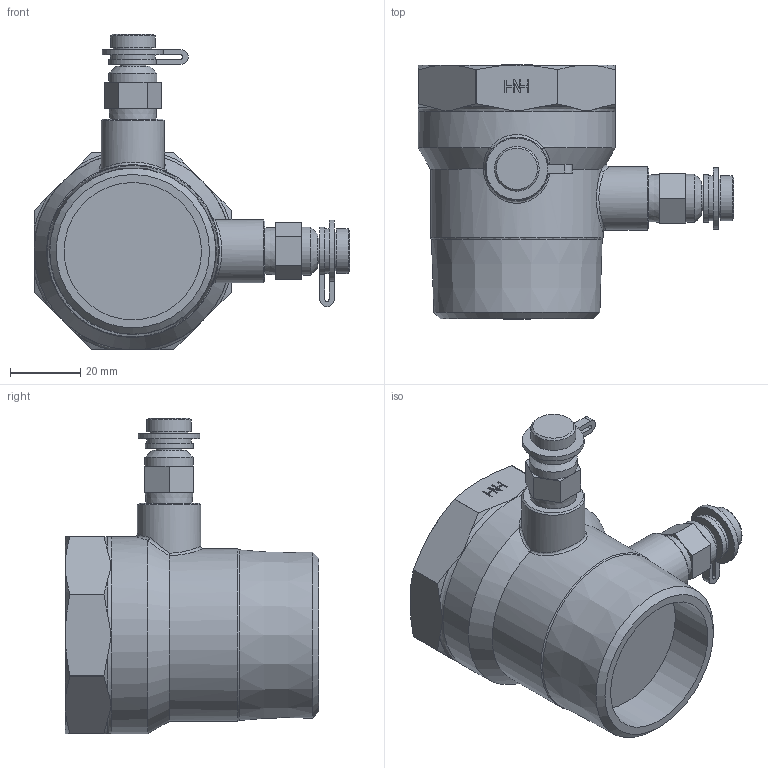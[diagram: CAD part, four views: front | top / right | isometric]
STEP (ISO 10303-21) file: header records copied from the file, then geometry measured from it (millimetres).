
FILE_DESCRIPTION((''),'2;1');
FILE_NAME('P:\Fastrack\53972_CRANE 3D\Workspace\Fig_1000_1 1-2in\New Folder\Fig_1000_1 1-2in.stp','2011-01-12T14:04:48',('btaylor'),(''),'Autodesk Inventor 2008','Autodesk Inventor 2008','');
FILE_SCHEMA(('AUTOMOTIVE_DESIGN { 1 0 10303 214 1 1 1 1 }'));
Length unit declared in the file: millimetre
Products named in the file (1): Fig_1000_1 1-2in
Bounding box: 89.61 x 72 x 89.61 mm (x, y, z)
Volume: 133267.2 mm3; surface area: 23932.2 mm2
Topology: 1 solids, 1 shells, 160 faces, 398 edges, 257 vertices
Faces by surface type: plane 89, cylinder 32, cone 27, bspline 12
Full cylindrical faces by diameter (mm): 7.4 x2, 11 x2, 12.7 x2, 13.7 x2, 18 x2, 49 x1, 56 x1
Entity records: 6410 total; most frequent: CARTESIAN_POINT 2685, ORIENTED_EDGE 720, DIRECTION 692, EDGE_CURVE 360, AXIS2_PLACEMENT_3D 259, VERTEX_POINT 245, EDGE_LOOP 207, VECTOR 174
